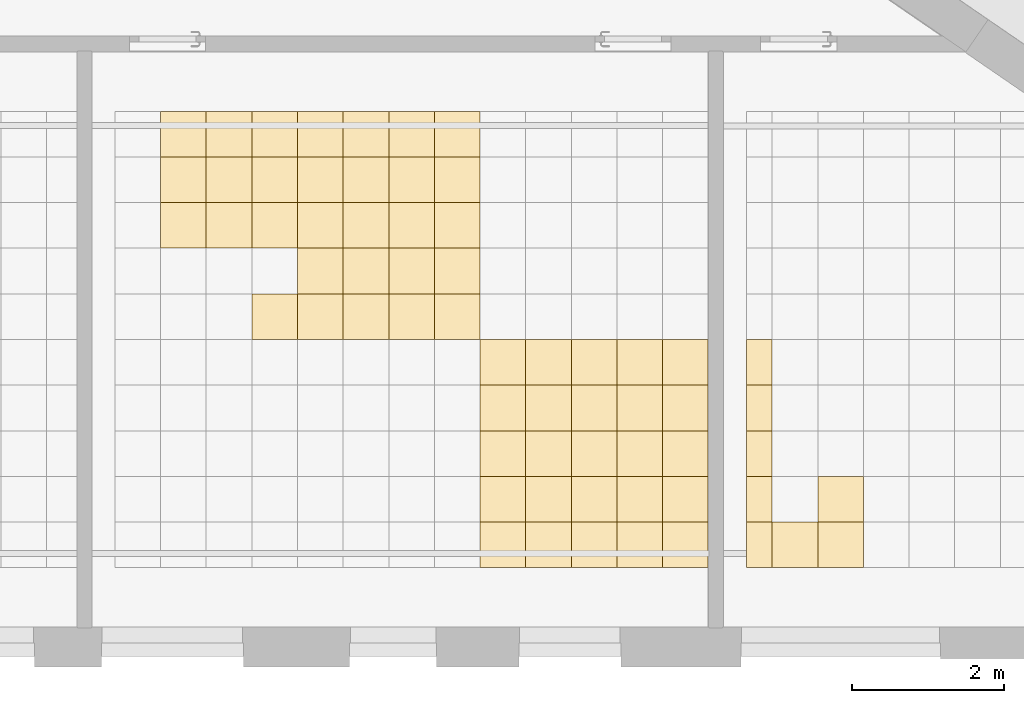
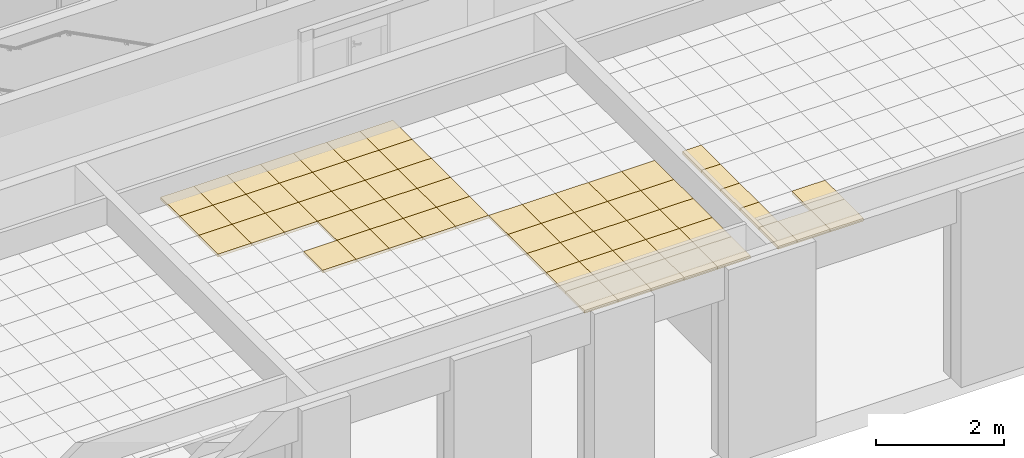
# One storey, part 74 of 79: 63 coverings.
"""IFC2X3 building model written with IfcOpenShell, lengths in millimetres."""

from ifc_helpers import new_model, entity, si_unit, converted_unit, derived_unit, money_unit, direction, frame, origin_with_axes, place, context, subcontext, project, spatial, faceted_brep, material, material_list, type_object, element, save


model = new_model("IFC2X3")

# Units and contexts
model_context = context("Model", 3, precision=0.01, world=origin_with_axes(), true_north=direction((0.0, 1.0)))
body_context = subcontext(model_context, "Body", "Model", "MODEL_VIEW")
ifc_project = project(units=[si_unit("LENGTHUNIT", "METRE", prefix="MILLI"), si_unit("AREAUNIT", "SQUARE_METRE"), si_unit("VOLUMEUNIT", "CUBIC_METRE"), converted_unit("PLANEANGLEUNIT", "DEGREE", entity("IfcPlaneAngleMeasure", 0.0174532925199), si_unit("PLANEANGLEUNIT", "RADIAN"), dimensions=[0, 0, 0, 0, 0, 0, 0]), si_unit("SOLIDANGLEUNIT", "STERADIAN"), money_unit("EUR"), converted_unit("TIMEUNIT", "Year", entity("IfcTimeMeasure", 31556926.0), si_unit("TIMEUNIT", "SECOND"), dimensions=[0, 0, 1, 0, 0, 0, 0]), si_unit("MASSUNIT", "GRAM", prefix="KILO"), si_unit("THERMODYNAMICTEMPERATUREUNIT", "DEGREE_CELSIUS"), si_unit("LUMINOUSINTENSITYUNIT", "LUMEN"), si_unit("ENERGYUNIT", "JOULE", prefix="MEGA"), derived_unit("THERMALCONDUCTANCEUNIT", [(si_unit("POWERUNIT", "WATT"), 1), (si_unit("LENGTHUNIT", "METRE"), -1), (si_unit("THERMODYNAMICTEMPERATUREUNIT", "KELVIN"), -1)]), derived_unit("SPECIFICHEATCAPACITYUNIT", [(si_unit("ENERGYUNIT", "JOULE"), 1), (si_unit("MASSUNIT", "GRAM", prefix="KILO"), -1), (si_unit("THERMODYNAMICTEMPERATUREUNIT", "KELVIN"), -1)]), derived_unit("MASSDENSITYUNIT", [(si_unit("MASSUNIT", "GRAM", prefix="KILO"), 1), (si_unit("VOLUMEUNIT", "CUBIC_METRE"), -1)])], contexts=[model_context])

# Site, building, storey
site_placement = place(None, origin_with_axes())
site = spatial("IfcSite", under=ifc_project, at=site_placement, Name="L.Koidula tn 11b", CompositionType="ELEMENT")
building_placement = place(site_placement, origin_with_axes())
building = spatial("IfcBuilding", under=site, at=building_placement, Name="Rakvere Riigigümnaasium", CompositionType="ELEMENT")
storey_placement = place(building_placement, frame((0.0, 0.0, 3720.0), z_axis=(0.0, 0.0, 1.0), x_axis=(1.0, 0.0, 0.0)))
storey = spatial("IfcBuildingStorey", under=building, at=storey_placement, Name="2.korrus +3,72", CompositionType="ELEMENT", Elevation=3720.0)

# Coverings
ifc_material_1 = material(Name="Karkass")
ifc_material_2 = material(Name="Kipsplaat")
ifc_material_list = material_list([ifc_material_1, ifc_material_2])
covering_type = type_object("IfcCoveringType", Name="SA-LV-Kips-moodul 55", PredefinedType="CEILING")
covering_1_placement = place(storey_placement, frame((84269.7446107, 11090.4535941, 2750.0), z_axis=(0.0, 0.0, 1.0), x_axis=(1.0, 0.0, 0.0)))
element("IfcCovering", 1, at=covering_1_placement, inside=storey, type_object=covering_type, material=ifc_material_list, Name="L-03", PredefinedType="CEILING", context=body_context, shape_type="Brep", body=[
    faceted_brep([(600.0, 0.0, 12.5), (600.0, 0.0, 54.5), (0.0, 0.0, 54.5), (0.0, 0.0, 12.5), (600.0, 600.0, 12.5), (600.0, 600.0, 54.5), (0.0, 600.0, 54.5), (0.0, 600.0, 12.5)], [[[0, 1, 2, 3]], [[4, 5, 1, 0]], [[2, 1, 5, 6]], [[3, 2, 6, 7]], [[3, 7, 4, 0]], [[7, 6, 5, 4]]]),
    faceted_brep([(0.0, 0.0, 0.0), (600.0, 0.0, 0.0), (600.0, 0.0, 12.5), (0.0, 0.0, 12.5), (0.0, 600.0, 0.0), (600.0, 600.0, 0.0), (600.0, 600.0, 12.5), (0.0, 600.0, 12.5)], [[[0, 1, 2, 3]], [[0, 4, 5, 1]], [[1, 5, 6, 2]], [[3, 2, 6, 7]], [[4, 0, 3, 7]], [[5, 4, 7, 6]]]),
])
for number, where, z_axis, x_axis, name in (
    (2, (81269.7447656, 11690.4535941, 2750.0), (0.0, 0.0, 1.0), (1.0, 0.0, 0.0), "L-03"),
    (3, (81269.7447656, 10490.4535941, 2750.0), (0.0, 0.0, 1.0), (1.0, 0.0, 0.0), "L-03"),
    (4, (81269.7447656, 11090.4535941, 2750.0), (0.0, 0.0, 1.0), (1.0, 0.0, 0.0), "L-03"),
    (5, (82469.744714, 11090.4535941, 2750.0), (0.0, 0.0, 1.0), (1.0, 0.0, 0.0), "L-03"),
):
    element("IfcCovering", number, at=place(storey_placement, frame(where, z_axis=z_axis, x_axis=x_axis)), inside=storey, type_object=covering_type, material=ifc_material_list, Name=name, PredefinedType="CEILING", context=body_context, shape_type="Brep", body=[
        faceted_brep([(599.999948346, 0.0, 12.5), (599.999948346, 0.0, 54.5), (0.0, 0.0, 54.5), (0.0, 0.0, 12.5), (599.999948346, 600.0, 12.5), (599.999948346, 600.0, 54.5), (0.0, 600.0, 54.5), (0.0, 600.0, 12.5)], [[[0, 1, 2, 3]], [[4, 5, 1, 0]], [[2, 1, 5, 6]], [[3, 2, 6, 7]], [[3, 7, 4, 0]], [[7, 6, 5, 4]]]),
        faceted_brep([(0.0, 0.0, 0.0), (599.999948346, 0.0, 0.0), (599.999948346, 0.0, 12.5), (0.0, 0.0, 12.5), (0.0, 600.0, 0.0), (599.999948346, 600.0, 0.0), (599.999948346, 600.0, 12.5), (0.0, 600.0, 12.5)], [[[0, 1, 2, 3]], [[0, 4, 5, 1]], [[1, 5, 6, 2]], [[3, 2, 6, 7]], [[4, 0, 3, 7]], [[5, 4, 7, 6]]]),
    ])
for number, where, z_axis, x_axis, name in (
    (6, (85469.744559, 8090.45359412, 2750.0), (0.0, 0.0, 1.0), (1.0, 0.0, 0.0), "L-03"),
    (7, (86669.7445073, 8690.45359412, 2750.0), (0.0, 0.0, 1.0), (1.0, 0.0, 0.0), "L-03"),
    (8, (86669.7445073, 8090.45359412, 2750.0), (0.0, 0.0, 1.0), (1.0, 0.0, 0.0), "L-03"),
    (9, (86669.7445073, 7490.45359412, 2750.0), (0.0, 0.0, 1.0), (1.0, 0.0, 0.0), "L-03"),
    (10, (87869.7444557, 7490.45359412, 2750.0), (0.0, 0.0, 1.0), (1.0, 0.0, 0.0), "L-03"),
):
    element("IfcCovering", number, at=place(storey_placement, frame(where, z_axis=z_axis, x_axis=x_axis)), inside=storey, type_object=covering_type, material=ifc_material_list, Name=name, PredefinedType="CEILING", context=body_context, shape_type="Brep", body=[
        faceted_brep([(600.0, 0.0, 12.5), (600.0, 0.0, 54.5), (0.0, 0.0, 54.5), (0.0, 0.0, 12.5), (600.0, 600.0, 12.5), (600.0, 600.0, 54.5), (0.0, 600.0, 54.5), (0.0, 600.0, 12.5)], [[[0, 1, 2, 3]], [[4, 5, 1, 0]], [[2, 1, 5, 6]], [[3, 2, 6, 7]], [[3, 7, 4, 0]], [[7, 6, 5, 4]]]),
        faceted_brep([(0.0, 0.0, 0.0), (600.0, 0.0, 0.0), (600.0, 0.0, 12.5), (0.0, 0.0, 12.5), (0.0, 600.0, 0.0), (600.0, 600.0, 0.0), (600.0, 600.0, 12.5), (0.0, 600.0, 12.5)], [[[0, 1, 2, 3]], [[0, 4, 5, 1]], [[1, 5, 6, 2]], [[3, 2, 6, 7]], [[4, 0, 3, 7]], [[5, 4, 7, 6]]]),
    ])
covering_2_placement = place(storey_placement, frame((87269.7445073, 6890.45359412, 2750.0), z_axis=(0.0, 0.0, 1.0), x_axis=(1.0, 0.0, 0.0)))
element("IfcCovering", 11, at=covering_2_placement, inside=storey, type_object=covering_type, material=ifc_material_list, Name="L-03", PredefinedType="CEILING", context=body_context, shape_type="Brep", body=[
    faceted_brep([(599.999948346, 0.0, 12.5), (599.999948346, 0.0, 54.5), (0.0, 0.0, 54.5), (0.0, 0.0, 12.5), (599.999948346, 600.0, 12.5), (599.999948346, 600.0, 54.5), (0.0, 600.0, 54.5), (0.0, 600.0, 12.5)], [[[0, 1, 2, 3]], [[4, 5, 1, 0]], [[2, 1, 5, 6]], [[3, 2, 6, 7]], [[3, 7, 4, 0]], [[7, 6, 5, 4]]]),
    faceted_brep([(0.0, 0.0, 0.0), (599.999948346, 0.0, 0.0), (599.999948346, 0.0, 12.5), (0.0, 0.0, 12.5), (0.0, 600.0, 0.0), (599.999948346, 600.0, 0.0), (599.999948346, 600.0, 12.5), (0.0, 600.0, 12.5)], [[[0, 1, 2, 3]], [[0, 4, 5, 1]], [[1, 5, 6, 2]], [[3, 2, 6, 7]], [[4, 0, 3, 7]], [[5, 4, 7, 6]]]),
])
covering_3_placement = place(storey_placement, frame((87869.7444557, 8690.45359412, 2750.0), z_axis=(0.0, 0.0, 1.0), x_axis=(1.0, 0.0, 0.0)))
element("IfcCovering", 12, at=covering_3_placement, inside=storey, type_object=covering_type, material=ifc_material_list, Name="L-03", PredefinedType="CEILING", context=body_context, shape_type="Brep", body=[
    faceted_brep([(600.0, 0.0, 12.5), (600.0, 0.0, 54.5), (0.0, 0.0, 54.5), (0.0, 0.0, 12.5), (600.0, 600.0, 12.5), (600.0, 600.0, 54.5), (0.0, 600.0, 54.5), (0.0, 600.0, 12.5)], [[[0, 1, 2, 3]], [[4, 5, 1, 0]], [[2, 1, 5, 6]], [[3, 2, 6, 7]], [[3, 7, 4, 0]], [[7, 6, 5, 4]]]),
    faceted_brep([(0.0, 0.0, 0.0), (600.0, 0.0, 0.0), (600.0, 0.0, 12.5), (0.0, 0.0, 12.5), (0.0, 600.0, 0.0), (600.0, 600.0, 0.0), (600.0, 600.0, 12.5), (0.0, 600.0, 12.5)], [[[0, 1, 2, 3]], [[0, 4, 5, 1]], [[1, 5, 6, 2]], [[3, 2, 6, 7]], [[4, 0, 3, 7]], [[5, 4, 7, 6]]]),
])
covering_4_placement = place(storey_placement, frame((87269.7445073, 6290.45359412, 2750.0), z_axis=(0.0, 0.0, 1.0), x_axis=(1.0, 0.0, 0.0)))
element("IfcCovering", 13, at=covering_4_placement, inside=storey, type_object=covering_type, material=ifc_material_list, Name="L-03", PredefinedType="CEILING", context=body_context, shape_type="Brep", body=[
    faceted_brep([(599.999948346, 0.0, 12.5), (599.999948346, 0.0, 54.5), (0.0, 0.0, 54.5), (0.0, 0.0, 12.5), (599.999948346, 600.0, 12.5), (599.999948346, 600.0, 54.5), (0.0, 600.0, 54.5), (0.0, 600.0, 12.5)], [[[0, 1, 2, 3]], [[4, 5, 1, 0]], [[2, 1, 5, 6]], [[3, 2, 6, 7]], [[3, 7, 4, 0]], [[7, 6, 5, 4]]]),
    faceted_brep([(0.0, 0.0, 0.0), (599.999948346, 0.0, 0.0), (599.999948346, 0.0, 12.5), (0.0, 0.0, 12.5), (0.0, 600.0, 0.0), (599.999948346, 600.0, 0.0), (599.999948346, 600.0, 12.5), (0.0, 600.0, 12.5)], [[[0, 1, 2, 3]], [[0, 4, 5, 1]], [[1, 5, 6, 2]], [[3, 2, 6, 7]], [[4, 0, 3, 7]], [[5, 4, 7, 6]]]),
])
for number, where, z_axis, x_axis, name in (
    (14, (87869.7444557, 8090.45359412, 2750.0), (0.0, 0.0, 1.0), (1.0, 0.0, 0.0), "L-03"),
    (15, (87869.7444557, 6290.45359412, 2750.0), (0.0, 0.0, 1.0), (1.0, 0.0, 0.0), "L-03"),
    (16, (87869.7444557, 6890.45359412, 2750.0), (0.0, 0.0, 1.0), (1.0, 0.0, 0.0), "L-03"),
):
    element("IfcCovering", number, at=place(storey_placement, frame(where, z_axis=z_axis, x_axis=x_axis)), inside=storey, type_object=covering_type, material=ifc_material_list, Name=name, PredefinedType="CEILING", context=body_context, shape_type="Brep", body=[
        faceted_brep([(600.0, 0.0, 12.5), (600.0, 0.0, 54.5), (0.0, 0.0, 54.5), (0.0, 0.0, 12.5), (600.0, 600.0, 12.5), (600.0, 600.0, 54.5), (0.0, 600.0, 54.5), (0.0, 600.0, 12.5)], [[[0, 1, 2, 3]], [[4, 5, 1, 0]], [[2, 1, 5, 6]], [[3, 2, 6, 7]], [[3, 7, 4, 0]], [[7, 6, 5, 4]]]),
        faceted_brep([(0.0, 0.0, 0.0), (600.0, 0.0, 0.0), (600.0, 0.0, 12.5), (0.0, 0.0, 12.5), (0.0, 600.0, 0.0), (600.0, 600.0, 0.0), (600.0, 600.0, 12.5), (0.0, 600.0, 12.5)], [[[0, 1, 2, 3]], [[0, 4, 5, 1]], [[1, 5, 6, 2]], [[3, 2, 6, 7]], [[4, 0, 3, 7]], [[5, 4, 7, 6]]]),
    ])
covering_5_placement = place(storey_placement, frame((87269.7445073, 7490.45359412, 2750.0), z_axis=(0.0, 0.0, 1.0), x_axis=(1.0, 0.0, 0.0)))
element("IfcCovering", 17, at=covering_5_placement, inside=storey, type_object=covering_type, material=ifc_material_list, Name="L-03", PredefinedType="CEILING", context=body_context, shape_type="Brep", body=[
    faceted_brep([(599.999948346, 0.0, 12.5), (599.999948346, 0.0, 54.5), (0.0, 0.0, 54.5), (0.0, 0.0, 12.5), (599.999948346, 600.0, 12.5), (599.999948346, 600.0, 54.5), (0.0, 600.0, 54.5), (0.0, 600.0, 12.5)], [[[0, 1, 2, 3]], [[4, 5, 1, 0]], [[2, 1, 5, 6]], [[3, 2, 6, 7]], [[3, 7, 4, 0]], [[7, 6, 5, 4]]]),
    faceted_brep([(0.0, 0.0, 0.0), (599.999948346, 0.0, 0.0), (599.999948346, 0.0, 12.5), (0.0, 0.0, 12.5), (0.0, 600.0, 0.0), (599.999948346, 600.0, 0.0), (599.999948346, 600.0, 12.5), (0.0, 600.0, 12.5)], [[[0, 1, 2, 3]], [[0, 4, 5, 1]], [[1, 5, 6, 2]], [[3, 2, 6, 7]], [[4, 0, 3, 7]], [[5, 4, 7, 6]]]),
])
covering_6_placement = place(storey_placement, frame((86669.7445073, 6290.45359412, 2750.0), z_axis=(0.0, 0.0, 1.0), x_axis=(1.0, 0.0, 0.0)))
element("IfcCovering", 18, at=covering_6_placement, inside=storey, type_object=covering_type, material=ifc_material_list, Name="L-03", PredefinedType="CEILING", context=body_context, shape_type="Brep", body=[
    faceted_brep([(600.0, 0.0, 12.5), (600.0, 0.0, 54.5), (0.0, 0.0, 54.5), (0.0, 0.0, 12.5), (600.0, 600.0, 12.5), (600.0, 600.0, 54.5), (0.0, 600.0, 54.5), (0.0, 600.0, 12.5)], [[[0, 1, 2, 3]], [[4, 5, 1, 0]], [[2, 1, 5, 6]], [[3, 2, 6, 7]], [[3, 7, 4, 0]], [[7, 6, 5, 4]]]),
    faceted_brep([(0.0, 0.0, 0.0), (600.0, 0.0, 0.0), (600.0, 0.0, 12.5), (0.0, 0.0, 12.5), (0.0, 600.0, 0.0), (600.0, 600.0, 0.0), (600.0, 600.0, 12.5), (0.0, 600.0, 12.5)], [[[0, 1, 2, 3]], [[0, 4, 5, 1]], [[1, 5, 6, 2]], [[3, 2, 6, 7]], [[4, 0, 3, 7]], [[5, 4, 7, 6]]]),
])
covering_7_placement = place(storey_placement, frame((87269.7445073, 8090.45359412, 2750.0), z_axis=(0.0, 0.0, 1.0), x_axis=(1.0, 0.0, 0.0)))
element("IfcCovering", 19, at=covering_7_placement, inside=storey, type_object=covering_type, material=ifc_material_list, Name="L-03", PredefinedType="CEILING", context=body_context, shape_type="Brep", body=[
    faceted_brep([(599.999948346, 0.0, 12.5), (599.999948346, 0.0, 54.5), (0.0, 0.0, 54.5), (0.0, 0.0, 12.5), (599.999948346, 600.0, 12.5), (599.999948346, 600.0, 54.5), (0.0, 600.0, 54.5), (0.0, 600.0, 12.5)], [[[0, 1, 2, 3]], [[4, 5, 1, 0]], [[2, 1, 5, 6]], [[3, 2, 6, 7]], [[3, 7, 4, 0]], [[7, 6, 5, 4]]]),
    faceted_brep([(0.0, 0.0, 0.0), (599.999948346, 0.0, 0.0), (599.999948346, 0.0, 12.5), (0.0, 0.0, 12.5), (0.0, 600.0, 0.0), (599.999948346, 600.0, 0.0), (599.999948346, 600.0, 12.5), (0.0, 600.0, 12.5)], [[[0, 1, 2, 3]], [[0, 4, 5, 1]], [[1, 5, 6, 2]], [[3, 2, 6, 7]], [[4, 0, 3, 7]], [[5, 4, 7, 6]]]),
])
for number, where, z_axis, x_axis, name in (
    (20, (85469.744559, 8690.45359412, 2750.0), (0.0, 0.0, 1.0), (1.0, 0.0, 0.0), "L-03"),
    (21, (86669.7445073, 6890.45359412, 2750.0), (0.0, 0.0, 1.0), (1.0, 0.0, 0.0), "L-03"),
):
    element("IfcCovering", number, at=place(storey_placement, frame(where, z_axis=z_axis, x_axis=x_axis)), inside=storey, type_object=covering_type, material=ifc_material_list, Name=name, PredefinedType="CEILING", context=body_context, shape_type="Brep", body=[
        faceted_brep([(600.0, 0.0, 12.5), (600.0, 0.0, 54.5), (0.0, 0.0, 54.5), (0.0, 0.0, 12.5), (600.0, 600.0, 12.5), (600.0, 600.0, 54.5), (0.0, 600.0, 54.5), (0.0, 600.0, 12.5)], [[[0, 1, 2, 3]], [[4, 5, 1, 0]], [[2, 1, 5, 6]], [[3, 2, 6, 7]], [[3, 7, 4, 0]], [[7, 6, 5, 4]]]),
        faceted_brep([(0.0, 0.0, 0.0), (600.0, 0.0, 0.0), (600.0, 0.0, 12.5), (0.0, 0.0, 12.5), (0.0, 600.0, 0.0), (600.0, 600.0, 0.0), (600.0, 600.0, 12.5), (0.0, 600.0, 12.5)], [[[0, 1, 2, 3]], [[0, 4, 5, 1]], [[1, 5, 6, 2]], [[3, 2, 6, 7]], [[4, 0, 3, 7]], [[5, 4, 7, 6]]]),
    ])
covering_8_placement = place(storey_placement, frame((87269.7445073, 8690.45359412, 2750.0), z_axis=(0.0, 0.0, 1.0), x_axis=(1.0, 0.0, 0.0)))
element("IfcCovering", 22, at=covering_8_placement, inside=storey, type_object=covering_type, material=ifc_material_list, Name="L-03", PredefinedType="CEILING", context=body_context, shape_type="Brep", body=[
    faceted_brep([(599.999948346, 0.0, 12.5), (599.999948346, 0.0, 54.5), (0.0, 0.0, 54.5), (0.0, 0.0, 12.5), (599.999948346, 600.0, 12.5), (599.999948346, 600.0, 54.5), (0.0, 600.0, 54.5), (0.0, 600.0, 12.5)], [[[0, 1, 2, 3]], [[4, 5, 1, 0]], [[2, 1, 5, 6]], [[3, 2, 6, 7]], [[3, 7, 4, 0]], [[7, 6, 5, 4]]]),
    faceted_brep([(0.0, 0.0, 0.0), (599.999948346, 0.0, 0.0), (599.999948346, 0.0, 12.5), (0.0, 0.0, 12.5), (0.0, 600.0, 0.0), (599.999948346, 600.0, 0.0), (599.999948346, 600.0, 12.5), (0.0, 600.0, 12.5)], [[[0, 1, 2, 3]], [[0, 4, 5, 1]], [[1, 5, 6, 2]], [[3, 2, 6, 7]], [[4, 0, 3, 7]], [[5, 4, 7, 6]]]),
])
for number, where, z_axis, x_axis, name in (
    (23, (85469.744559, 6290.45359412, 2750.0), (0.0, 0.0, 1.0), (1.0, 0.0, 0.0), "L-03"),
    (24, (85469.744559, 6890.45359412, 2750.0), (0.0, 0.0, 1.0), (1.0, 0.0, 0.0), "L-03"),
):
    element("IfcCovering", number, at=place(storey_placement, frame(where, z_axis=z_axis, x_axis=x_axis)), inside=storey, type_object=covering_type, material=ifc_material_list, Name=name, PredefinedType="CEILING", context=body_context, shape_type="Brep", body=[
        faceted_brep([(600.0, 0.0, 12.5), (600.0, 0.0, 54.5), (0.0, 0.0, 54.5), (0.0, 0.0, 12.5), (600.0, 600.0, 12.5), (600.0, 600.0, 54.5), (0.0, 600.0, 54.5), (0.0, 600.0, 12.5)], [[[0, 1, 2, 3]], [[4, 5, 1, 0]], [[2, 1, 5, 6]], [[3, 2, 6, 7]], [[3, 7, 4, 0]], [[7, 6, 5, 4]]]),
        faceted_brep([(0.0, 0.0, 0.0), (600.0, 0.0, 0.0), (600.0, 0.0, 12.5), (0.0, 0.0, 12.5), (0.0, 600.0, 0.0), (600.0, 600.0, 0.0), (600.0, 600.0, 12.5), (0.0, 600.0, 12.5)], [[[0, 1, 2, 3]], [[0, 4, 5, 1]], [[1, 5, 6, 2]], [[3, 2, 6, 7]], [[4, 0, 3, 7]], [[5, 4, 7, 6]]]),
    ])
for number, where, z_axis, x_axis, name in (
    (25, (86069.744559, 6290.45359412, 2750.0), (0.0, 0.0, 1.0), (1.0, 0.0, 0.0), "L-03"),
    (26, (83669.7446623, 11690.4535941, 2750.0), (0.0, 0.0, 1.0), (1.0, 0.0, 0.0), "L-03"),
    (27, (82469.744714, 10490.4535941, 2750.0), (0.0, 0.0, 1.0), (1.0, 0.0, 0.0), "L-03"),
    (28, (86069.744559, 7490.45359412, 2750.0), (0.0, 0.0, 1.0), (1.0, 0.0, 0.0), "L-03"),
    (29, (83669.7446623, 9290.45359412, 2750.0), (0.0, 0.0, 1.0), (1.0, 0.0, 0.0), "L-03"),
    (30, (83669.7446623, 9890.45359412, 2750.0), (0.0, 0.0, 1.0), (1.0, 0.0, 0.0), "L-03"),
    (31, (86069.744559, 8090.45359412, 2750.0), (0.0, 0.0, 1.0), (1.0, 0.0, 0.0), "L-03"),
    (32, (83669.7446623, 11090.4535941, 2750.0), (0.0, 0.0, 1.0), (1.0, 0.0, 0.0), "L-03"),
    (33, (86069.744559, 8690.45359412, 2750.0), (0.0, 0.0, 1.0), (1.0, 0.0, 0.0), "L-03"),
    (34, (83669.7446623, 10490.4535941, 2750.0), (0.0, 0.0, 1.0), (1.0, 0.0, 0.0), "L-03"),
):
    element("IfcCovering", number, at=place(storey_placement, frame(where, z_axis=z_axis, x_axis=x_axis)), inside=storey, type_object=covering_type, material=ifc_material_list, Name=name, PredefinedType="CEILING", context=body_context, shape_type="Brep", body=[
        faceted_brep([(599.999948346, 0.0, 12.5), (599.999948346, 0.0, 54.5), (0.0, 0.0, 54.5), (0.0, 0.0, 12.5), (599.999948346, 600.0, 12.5), (599.999948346, 600.0, 54.5), (0.0, 600.0, 54.5), (0.0, 600.0, 12.5)], [[[0, 1, 2, 3]], [[4, 5, 1, 0]], [[2, 1, 5, 6]], [[3, 2, 6, 7]], [[3, 7, 4, 0]], [[7, 6, 5, 4]]]),
        faceted_brep([(0.0, 0.0, 0.0), (599.999948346, 0.0, 0.0), (599.999948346, 0.0, 12.5), (0.0, 0.0, 12.5), (0.0, 600.0, 0.0), (599.999948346, 600.0, 0.0), (599.999948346, 600.0, 12.5), (0.0, 600.0, 12.5)], [[[0, 1, 2, 3]], [[0, 4, 5, 1]], [[1, 5, 6, 2]], [[3, 2, 6, 7]], [[4, 0, 3, 7]], [[5, 4, 7, 6]]]),
    ])
for number, where, z_axis, x_axis, name in (
    (35, (81869.744714, 11090.4535941, 2750.0), (0.0, 0.0, 1.0), (1.0, 0.0, 0.0), "L-03"),
    (36, (81869.744714, 11690.4535941, 2750.0), (0.0, 0.0, 1.0), (1.0, 0.0, 0.0), "L-03"),
):
    element("IfcCovering", number, at=place(storey_placement, frame(where, z_axis=z_axis, x_axis=x_axis)), inside=storey, type_object=covering_type, material=ifc_material_list, Name=name, PredefinedType="CEILING", context=body_context, shape_type="Brep", body=[
        faceted_brep([(600.0, 0.0, 12.5), (600.0, 0.0, 54.5), (0.0, 0.0, 54.5), (0.0, 0.0, 12.5), (600.0, 600.0, 12.5), (600.0, 600.0, 54.5), (0.0, 600.0, 54.5), (0.0, 600.0, 12.5)], [[[0, 1, 2, 3]], [[4, 5, 1, 0]], [[2, 1, 5, 6]], [[3, 2, 6, 7]], [[3, 7, 4, 0]], [[7, 6, 5, 4]]]),
        faceted_brep([(0.0, 0.0, 0.0), (600.0, 0.0, 0.0), (600.0, 0.0, 12.5), (0.0, 0.0, 12.5), (0.0, 600.0, 0.0), (600.0, 600.0, 0.0), (600.0, 600.0, 12.5), (0.0, 600.0, 12.5)], [[[0, 1, 2, 3]], [[0, 4, 5, 1]], [[1, 5, 6, 2]], [[3, 2, 6, 7]], [[4, 0, 3, 7]], [[5, 4, 7, 6]]]),
    ])
covering_9_placement = place(storey_placement, frame((82469.744714, 9290.45359412, 2750.0), z_axis=(0.0, 0.0, 1.0), x_axis=(1.0, 0.0, 0.0)))
element("IfcCovering", 37, at=covering_9_placement, inside=storey, type_object=covering_type, material=ifc_material_list, Name="L-03", PredefinedType="CEILING", context=body_context, shape_type="Brep", body=[
    faceted_brep([(599.999948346, 0.0, 12.5), (599.999948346, 0.0, 54.5), (0.0, 0.0, 54.5), (0.0, 0.0, 12.5), (599.999948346, 600.0, 12.5), (599.999948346, 600.0, 54.5), (0.0, 600.0, 54.5), (0.0, 600.0, 12.5)], [[[0, 1, 2, 3]], [[4, 5, 1, 0]], [[2, 1, 5, 6]], [[3, 2, 6, 7]], [[3, 7, 4, 0]], [[7, 6, 5, 4]]]),
    faceted_brep([(0.0, 0.0, 0.0), (599.999948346, 0.0, 0.0), (599.999948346, 0.0, 12.5), (0.0, 0.0, 12.5), (0.0, 600.0, 0.0), (599.999948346, 600.0, 0.0), (599.999948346, 600.0, 12.5), (0.0, 600.0, 12.5)], [[[0, 1, 2, 3]], [[0, 4, 5, 1]], [[1, 5, 6, 2]], [[3, 2, 6, 7]], [[4, 0, 3, 7]], [[5, 4, 7, 6]]]),
])
covering_10_placement = place(storey_placement, frame((81869.744714, 10490.4535941, 2750.0), z_axis=(0.0, 0.0, 1.0), x_axis=(1.0, 0.0, 0.0)))
element("IfcCovering", 38, at=covering_10_placement, inside=storey, type_object=covering_type, material=ifc_material_list, Name="L-03", PredefinedType="CEILING", context=body_context, shape_type="Brep", body=[
    faceted_brep([(600.0, 0.0, 12.5), (600.0, 0.0, 54.5), (0.0, 0.0, 54.5), (0.0, 0.0, 12.5), (600.0, 600.0, 12.5), (600.0, 600.0, 54.5), (0.0, 600.0, 54.5), (0.0, 600.0, 12.5)], [[[0, 1, 2, 3]], [[4, 5, 1, 0]], [[2, 1, 5, 6]], [[3, 2, 6, 7]], [[3, 7, 4, 0]], [[7, 6, 5, 4]]]),
    faceted_brep([(0.0, 0.0, 0.0), (600.0, 0.0, 0.0), (600.0, 0.0, 12.5), (0.0, 0.0, 12.5), (0.0, 600.0, 0.0), (600.0, 600.0, 0.0), (600.0, 600.0, 12.5), (0.0, 600.0, 12.5)], [[[0, 1, 2, 3]], [[0, 4, 5, 1]], [[1, 5, 6, 2]], [[3, 2, 6, 7]], [[4, 0, 3, 7]], [[5, 4, 7, 6]]]),
])
covering_11_placement = place(storey_placement, frame((84869.7446107, 11090.4535941, 2750.0), z_axis=(0.0, 0.0, 1.0), x_axis=(1.0, 0.0, 0.0)))
element("IfcCovering", 39, at=covering_11_placement, inside=storey, type_object=covering_type, material=ifc_material_list, Name="L-03", PredefinedType="CEILING", context=body_context, shape_type="Brep", body=[
    faceted_brep([(599.999948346, 0.0, 12.5), (599.999948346, 0.0, 54.5), (0.0, 0.0, 54.5), (0.0, 0.0, 12.5), (599.999948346, 600.0, 12.5), (599.999948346, 600.0, 54.5), (0.0, 600.0, 54.5), (0.0, 600.0, 12.5)], [[[0, 1, 2, 3]], [[4, 5, 1, 0]], [[2, 1, 5, 6]], [[3, 2, 6, 7]], [[3, 7, 4, 0]], [[7, 6, 5, 4]]]),
    faceted_brep([(0.0, 0.0, 0.0), (599.999948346, 0.0, 0.0), (599.999948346, 0.0, 12.5), (0.0, 0.0, 12.5), (0.0, 600.0, 0.0), (599.999948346, 600.0, 0.0), (599.999948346, 600.0, 12.5), (0.0, 600.0, 12.5)], [[[0, 1, 2, 3]], [[0, 4, 5, 1]], [[1, 5, 6, 2]], [[3, 2, 6, 7]], [[4, 0, 3, 7]], [[5, 4, 7, 6]]]),
])
for number, where, z_axis, x_axis, name in (
    (40, (84269.7446107, 11690.4535941, 2750.0), (0.0, 0.0, 1.0), (1.0, 0.0, 0.0), "L-03"),
    (41, (84269.7446107, 9890.45359412, 2750.0), (0.0, 0.0, 1.0), (1.0, 0.0, 0.0), "L-03"),
    (42, (84269.7446107, 10490.4535941, 2750.0), (0.0, 0.0, 1.0), (1.0, 0.0, 0.0), "L-03"),
):
    element("IfcCovering", number, at=place(storey_placement, frame(where, z_axis=z_axis, x_axis=x_axis)), inside=storey, type_object=covering_type, material=ifc_material_list, Name=name, PredefinedType="CEILING", context=body_context, shape_type="Brep", body=[
        faceted_brep([(600.0, 0.0, 12.5), (600.0, 0.0, 54.5), (0.0, 0.0, 54.5), (0.0, 0.0, 12.5), (600.0, 600.0, 12.5), (600.0, 600.0, 54.5), (0.0, 600.0, 54.5), (0.0, 600.0, 12.5)], [[[0, 1, 2, 3]], [[4, 5, 1, 0]], [[2, 1, 5, 6]], [[3, 2, 6, 7]], [[3, 7, 4, 0]], [[7, 6, 5, 4]]]),
        faceted_brep([(0.0, 0.0, 0.0), (600.0, 0.0, 0.0), (600.0, 0.0, 12.5), (0.0, 0.0, 12.5), (0.0, 600.0, 0.0), (600.0, 600.0, 0.0), (600.0, 600.0, 12.5), (0.0, 600.0, 12.5)], [[[0, 1, 2, 3]], [[0, 4, 5, 1]], [[1, 5, 6, 2]], [[3, 2, 6, 7]], [[4, 0, 3, 7]], [[5, 4, 7, 6]]]),
    ])
covering_12_placement = place(storey_placement, frame((84869.7446107, 10490.4535941, 2750.0), z_axis=(0.0, 0.0, 1.0), x_axis=(1.0, 0.0, 0.0)))
element("IfcCovering", 43, at=covering_12_placement, inside=storey, type_object=covering_type, material=ifc_material_list, Name="L-03", PredefinedType="CEILING", context=body_context, shape_type="Brep", body=[
    faceted_brep([(599.999948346, 0.0, 12.5), (599.999948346, 0.0, 54.5), (0.0, 0.0, 54.5), (0.0, 0.0, 12.5), (599.999948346, 600.0, 12.5), (599.999948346, 600.0, 54.5), (0.0, 600.0, 54.5), (0.0, 600.0, 12.5)], [[[0, 1, 2, 3]], [[4, 5, 1, 0]], [[2, 1, 5, 6]], [[3, 2, 6, 7]], [[3, 7, 4, 0]], [[7, 6, 5, 4]]]),
    faceted_brep([(0.0, 0.0, 0.0), (599.999948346, 0.0, 0.0), (599.999948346, 0.0, 12.5), (0.0, 0.0, 12.5), (0.0, 600.0, 0.0), (599.999948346, 600.0, 0.0), (599.999948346, 600.0, 12.5), (0.0, 600.0, 12.5)], [[[0, 1, 2, 3]], [[0, 4, 5, 1]], [[1, 5, 6, 2]], [[3, 2, 6, 7]], [[4, 0, 3, 7]], [[5, 4, 7, 6]]]),
])
for number, where, z_axis, x_axis, name in (
    (44, (84269.7446107, 9290.45359412, 2750.0), (0.0, 0.0, 1.0), (1.0, 0.0, 0.0), "L-03"),
    (45, (83069.7446623, 11690.4535941, 2750.0), (0.0, 0.0, 1.0), (1.0, 0.0, 0.0), "L-03"),
):
    element("IfcCovering", number, at=place(storey_placement, frame(where, z_axis=z_axis, x_axis=x_axis)), inside=storey, type_object=covering_type, material=ifc_material_list, Name=name, PredefinedType="CEILING", context=body_context, shape_type="Brep", body=[
        faceted_brep([(600.0, 0.0, 12.5), (600.0, 0.0, 54.5), (0.0, 0.0, 54.5), (0.0, 0.0, 12.5), (600.0, 600.0, 12.5), (600.0, 600.0, 54.5), (0.0, 600.0, 54.5), (0.0, 600.0, 12.5)], [[[0, 1, 2, 3]], [[4, 5, 1, 0]], [[2, 1, 5, 6]], [[3, 2, 6, 7]], [[3, 7, 4, 0]], [[7, 6, 5, 4]]]),
        faceted_brep([(0.0, 0.0, 0.0), (600.0, 0.0, 0.0), (600.0, 0.0, 12.5), (0.0, 0.0, 12.5), (0.0, 600.0, 0.0), (600.0, 600.0, 0.0), (600.0, 600.0, 12.5), (0.0, 600.0, 12.5)], [[[0, 1, 2, 3]], [[0, 4, 5, 1]], [[1, 5, 6, 2]], [[3, 2, 6, 7]], [[4, 0, 3, 7]], [[5, 4, 7, 6]]]),
    ])
for number, where, z_axis, x_axis, name in (
    (46, (84869.7446107, 9290.45359412, 2750.0), (0.0, 0.0, 1.0), (1.0, 0.0, 0.0), "L-03"),
    (47, (82469.744714, 11690.4535941, 2750.0), (0.0, 0.0, 1.0), (1.0, 0.0, 0.0), "L-03"),
):
    element("IfcCovering", number, at=place(storey_placement, frame(where, z_axis=z_axis, x_axis=x_axis)), inside=storey, type_object=covering_type, material=ifc_material_list, Name=name, PredefinedType="CEILING", context=body_context, shape_type="Brep", body=[
        faceted_brep([(599.999948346, 0.0, 12.5), (599.999948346, 0.0, 54.5), (0.0, 0.0, 54.5), (0.0, 0.0, 12.5), (599.999948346, 600.0, 12.5), (599.999948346, 600.0, 54.5), (0.0, 600.0, 54.5), (0.0, 600.0, 12.5)], [[[0, 1, 2, 3]], [[4, 5, 1, 0]], [[2, 1, 5, 6]], [[3, 2, 6, 7]], [[3, 7, 4, 0]], [[7, 6, 5, 4]]]),
        faceted_brep([(0.0, 0.0, 0.0), (599.999948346, 0.0, 0.0), (599.999948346, 0.0, 12.5), (0.0, 0.0, 12.5), (0.0, 600.0, 0.0), (599.999948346, 600.0, 0.0), (599.999948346, 600.0, 12.5), (0.0, 600.0, 12.5)], [[[0, 1, 2, 3]], [[0, 4, 5, 1]], [[1, 5, 6, 2]], [[3, 2, 6, 7]], [[4, 0, 3, 7]], [[5, 4, 7, 6]]]),
    ])
covering_13_placement = place(storey_placement, frame((83069.7446623, 11090.4535941, 2750.0), z_axis=(0.0, 0.0, 1.0), x_axis=(1.0, 0.0, 0.0)))
element("IfcCovering", 48, at=covering_13_placement, inside=storey, type_object=covering_type, material=ifc_material_list, Name="L-03", PredefinedType="CEILING", context=body_context, shape_type="Brep", body=[
    faceted_brep([(600.0, 0.0, 12.5), (600.0, 0.0, 54.5), (0.0, 0.0, 54.5), (0.0, 0.0, 12.5), (600.0, 600.0, 12.5), (600.0, 600.0, 54.5), (0.0, 600.0, 54.5), (0.0, 600.0, 12.5)], [[[0, 1, 2, 3]], [[4, 5, 1, 0]], [[2, 1, 5, 6]], [[3, 2, 6, 7]], [[3, 7, 4, 0]], [[7, 6, 5, 4]]]),
    faceted_brep([(0.0, 0.0, 0.0), (600.0, 0.0, 0.0), (600.0, 0.0, 12.5), (0.0, 0.0, 12.5), (0.0, 600.0, 0.0), (600.0, 600.0, 0.0), (600.0, 600.0, 12.5), (0.0, 600.0, 12.5)], [[[0, 1, 2, 3]], [[0, 4, 5, 1]], [[1, 5, 6, 2]], [[3, 2, 6, 7]], [[4, 0, 3, 7]], [[5, 4, 7, 6]]]),
])
covering_14_placement = place(storey_placement, frame((86069.744559, 6890.45359412, 2750.0), z_axis=(0.0, 0.0, 1.0), x_axis=(1.0, 0.0, 0.0)))
element("IfcCovering", 49, at=covering_14_placement, inside=storey, type_object=covering_type, material=ifc_material_list, Name="L-03", PredefinedType="CEILING", context=body_context, shape_type="Brep", body=[
    faceted_brep([(599.999948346, 0.0, 12.5), (599.999948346, 0.0, 54.5), (0.0, 0.0, 54.5), (0.0, 0.0, 12.5), (599.999948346, 600.0, 12.5), (599.999948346, 600.0, 54.5), (0.0, 600.0, 54.5), (0.0, 600.0, 12.5)], [[[0, 1, 2, 3]], [[4, 5, 1, 0]], [[2, 1, 5, 6]], [[3, 2, 6, 7]], [[3, 7, 4, 0]], [[7, 6, 5, 4]]]),
    faceted_brep([(0.0, 0.0, 0.0), (599.999948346, 0.0, 0.0), (599.999948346, 0.0, 12.5), (0.0, 0.0, 12.5), (0.0, 600.0, 0.0), (599.999948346, 600.0, 0.0), (599.999948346, 600.0, 12.5), (0.0, 600.0, 12.5)], [[[0, 1, 2, 3]], [[0, 4, 5, 1]], [[1, 5, 6, 2]], [[3, 2, 6, 7]], [[4, 0, 3, 7]], [[5, 4, 7, 6]]]),
])
for number, where, z_axis, x_axis, name in (
    (50, (83069.7446623, 10490.4535941, 2750.0), (0.0, 0.0, 1.0), (1.0, 0.0, 0.0), "L-03"),
    (51, (83069.7446623, 9890.45359412, 2750.0), (0.0, 0.0, 1.0), (1.0, 0.0, 0.0), "L-03"),
    (52, (83069.7446623, 9290.45359412, 2750.0), (0.0, 0.0, 1.0), (1.0, 0.0, 0.0), "L-03"),
    (53, (85469.744559, 7490.45359412, 2750.0), (0.0, 0.0, 1.0), (1.0, 0.0, 0.0), "L-03"),
):
    element("IfcCovering", number, at=place(storey_placement, frame(where, z_axis=z_axis, x_axis=x_axis)), inside=storey, type_object=covering_type, material=ifc_material_list, Name=name, PredefinedType="CEILING", context=body_context, shape_type="Brep", body=[
        faceted_brep([(600.0, 0.0, 12.5), (600.0, 0.0, 54.5), (0.0, 0.0, 54.5), (0.0, 0.0, 12.5), (600.0, 600.0, 12.5), (600.0, 600.0, 54.5), (0.0, 600.0, 54.5), (0.0, 600.0, 12.5)], [[[0, 1, 2, 3]], [[4, 5, 1, 0]], [[2, 1, 5, 6]], [[3, 2, 6, 7]], [[3, 7, 4, 0]], [[7, 6, 5, 4]]]),
        faceted_brep([(0.0, 0.0, 0.0), (600.0, 0.0, 0.0), (600.0, 0.0, 12.5), (0.0, 0.0, 12.5), (0.0, 600.0, 0.0), (600.0, 600.0, 0.0), (600.0, 600.0, 12.5), (0.0, 600.0, 12.5)], [[[0, 1, 2, 3]], [[0, 4, 5, 1]], [[1, 5, 6, 2]], [[3, 2, 6, 7]], [[4, 0, 3, 7]], [[5, 4, 7, 6]]]),
    ])
for number, where, z_axis, x_axis, name in (
    (54, (84869.7446107, 9890.45359412, 2750.0), (0.0, 0.0, 1.0), (1.0, 0.0, 0.0), "L-03"),
    (55, (84869.7446107, 11690.4535941, 2750.0), (0.0, 0.0, 1.0), (1.0, 0.0, 0.0), "L-03"),
    (56, (89309.88519, 6290.45359412, 2750.0), (0.0, 0.0, 1.0), (1.0, 0.0, 0.0), "L-03"),
):
    element("IfcCovering", number, at=place(storey_placement, frame(where, z_axis=z_axis, x_axis=x_axis)), inside=storey, type_object=covering_type, material=ifc_material_list, Name=name, PredefinedType="CEILING", context=body_context, shape_type="Brep", body=[
        faceted_brep([(599.999948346, 0.0, 12.5), (599.999948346, 0.0, 54.5), (0.0, 0.0, 54.5), (0.0, 0.0, 12.5), (599.999948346, 600.0, 12.5), (599.999948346, 600.0, 54.5), (0.0, 600.0, 54.5), (0.0, 600.0, 12.5)], [[[0, 1, 2, 3]], [[4, 5, 1, 0]], [[2, 1, 5, 6]], [[3, 2, 6, 7]], [[3, 7, 4, 0]], [[7, 6, 5, 4]]]),
        faceted_brep([(0.0, 0.0, 0.0), (599.999948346, 0.0, 0.0), (599.999948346, 0.0, 12.5), (0.0, 0.0, 12.5), (0.0, 600.0, 0.0), (599.999948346, 600.0, 0.0), (599.999948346, 600.0, 12.5), (0.0, 600.0, 12.5)], [[[0, 1, 2, 3]], [[0, 4, 5, 1]], [[1, 5, 6, 2]], [[3, 2, 6, 7]], [[4, 0, 3, 7]], [[5, 4, 7, 6]]]),
    ])
for number, where, z_axis, x_axis, name in (
    (57, (89909.8851384, 6890.45359412, 2750.0), (0.0, 0.0, 1.0), (1.0, 0.0, 0.0), "L-03"),
    (58, (89909.8851384, 6290.45359412, 2750.0), (0.0, 0.0, 1.0), (1.0, 0.0, 0.0), "L-03"),
):
    element("IfcCovering", number, at=place(storey_placement, frame(where, z_axis=z_axis, x_axis=x_axis)), inside=storey, type_object=covering_type, material=ifc_material_list, Name=name, PredefinedType="CEILING", context=body_context, shape_type="Brep", body=[
        faceted_brep([(600.0, 0.0, 12.5), (600.0, 0.0, 54.5), (0.0, 0.0, 54.5), (0.0, 0.0, 12.5), (600.0, 600.0, 12.5), (600.0, 600.0, 54.5), (0.0, 600.0, 54.5), (0.0, 600.0, 12.5)], [[[0, 1, 2, 3]], [[4, 5, 1, 0]], [[2, 1, 5, 6]], [[3, 2, 6, 7]], [[3, 7, 4, 0]], [[7, 6, 5, 4]]]),
        faceted_brep([(0.0, 0.0, 0.0), (600.0, 0.0, 0.0), (600.0, 0.0, 12.5), (0.0, 0.0, 12.5), (0.0, 600.0, 0.0), (600.0, 600.0, 0.0), (600.0, 600.0, 12.5), (0.0, 600.0, 12.5)], [[[0, 1, 2, 3]], [[0, 4, 5, 1]], [[1, 5, 6, 2]], [[3, 2, 6, 7]], [[4, 0, 3, 7]], [[5, 4, 7, 6]]]),
    ])
for number, where, z_axis, x_axis, name in (
    (59, (88970.0000019, 6890.45359412, 2750.0), (0.0, 0.0, 1.0), (1.0, 0.0, 0.0), "L-03"),
    (60, (88970.0000019, 6290.45359412, 2750.0), (0.0, 0.0, 1.0), (1.0, 0.0, 0.0), "L-03"),
    (61, (88970.0000019, 8690.45359412, 2750.0), (0.0, 0.0, 1.0), (1.0, 0.0, 0.0), "L-03"),
    (62, (88970.0000019, 7490.45359412, 2750.0), (0.0, 0.0, 1.0), (1.0, 0.0, 0.0), "L-03"),
    (63, (88970.0000019, 8090.45359412, 2750.0), (0.0, 0.0, 1.0), (1.0, 0.0, 0.0), "L-03"),
):
    element("IfcCovering", number, at=place(storey_placement, frame(where, z_axis=z_axis, x_axis=x_axis)), inside=storey, type_object=covering_type, material=ifc_material_list, Name=name, PredefinedType="CEILING", context=body_context, shape_type="Brep", body=[
        faceted_brep([(339.885188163, 0.0, 12.5), (339.885188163, 0.0, 54.5), (0.0, 0.0, 54.5), (0.0, 0.0, 12.5), (339.885188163, 600.0, 12.5), (339.885188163, 600.0, 54.5), (0.0, 600.0, 54.5), (0.0, 600.0, 12.5)], [[[0, 1, 2, 3]], [[4, 5, 1, 0]], [[2, 1, 5, 6]], [[3, 2, 6, 7]], [[3, 7, 4, 0]], [[7, 6, 5, 4]]]),
        faceted_brep([(0.0, 0.0, 0.0), (339.885188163, 0.0, 0.0), (339.885188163, 0.0, 12.5), (0.0, 0.0, 12.5), (0.0, 600.0, 0.0), (339.885188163, 600.0, 0.0), (339.885188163, 600.0, 12.5), (0.0, 600.0, 12.5)], [[[0, 1, 2, 3]], [[0, 4, 5, 1]], [[1, 5, 6, 2]], [[3, 2, 6, 7]], [[4, 0, 3, 7]], [[5, 4, 7, 6]]]),
    ])

save(model, "model.ifc")
